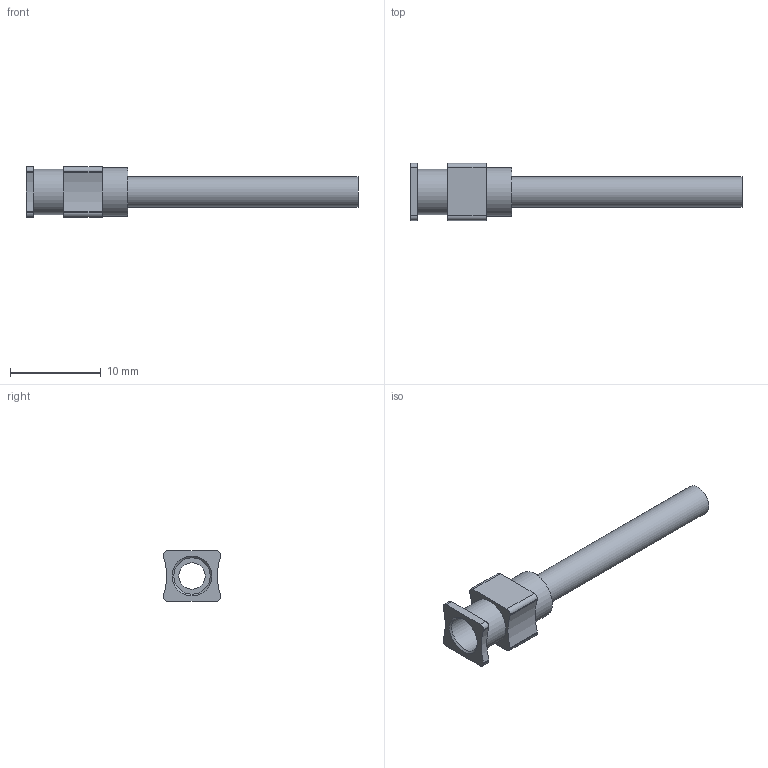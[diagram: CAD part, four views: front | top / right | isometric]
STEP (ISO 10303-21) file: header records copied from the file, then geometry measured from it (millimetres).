
FILE_DESCRIPTION (( 'STEP AP214' ), '1' );
FILE_NAME ('DAV SS 10 10.STEP', '2021-04-15T08:09:17', ( '' ), ( '' ), 'SwSTEP 2.0', 'SolidWorks 2015', '' );
FILE_SCHEMA (( 'AUTOMOTIVE_DESIGN' ));
Length unit declared in the file: millimetre
Products named in the file (1): DAV SS 10 10
Bounding box: 36.6 x 6.3 x 5.6 mm (x, y, z)
Volume: 243 mm3; surface area: 924.9 mm2
Topology: 1 solids, 1 shells, 37 faces, 90 edges, 60 vertices
Faces by surface type: plane 19, cylinder 17, cone 1
Full cylindrical faces by diameter (mm): 2.9 x1, 3.4 x1, 4 x1, 5 x1, 5.4 x1
Entity records: 1098 total; most frequent: DIRECTION 194, CARTESIAN_POINT 180, ORIENTED_EDGE 166, EDGE_CURVE 83, AXIS2_PLACEMENT_3D 73, VERTEX_POINT 59, EDGE_LOOP 50, LINE 48
